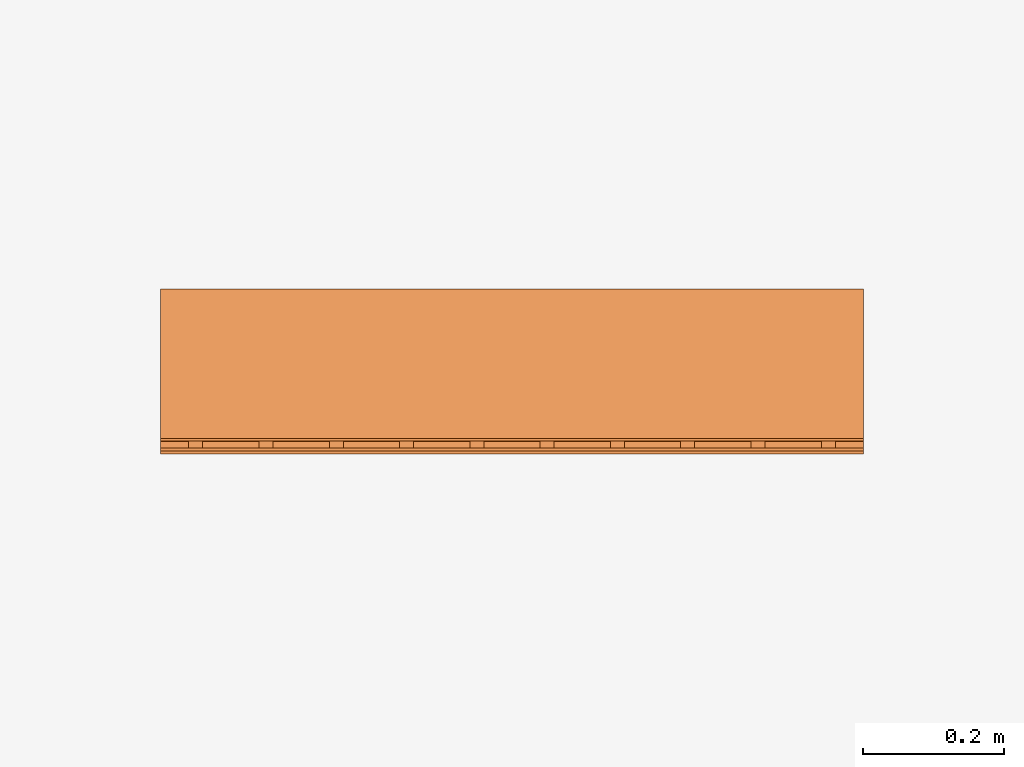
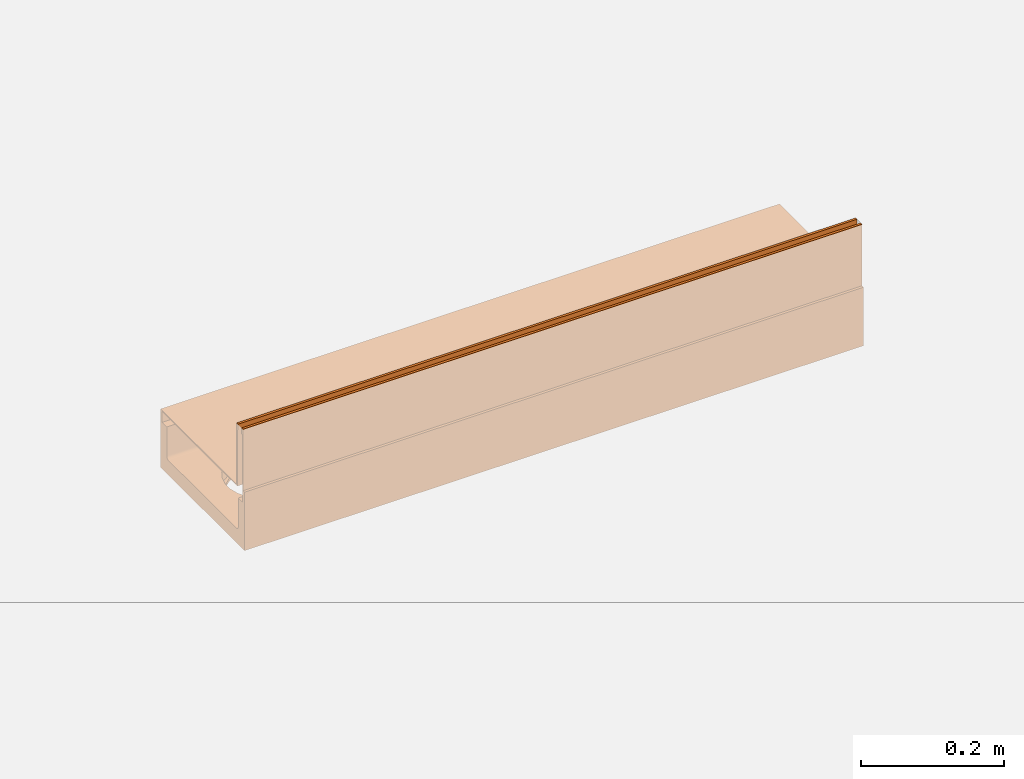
# One storey, part 2 of 2: 1 proxy, 1 opening.
"""IFC2X3 building model written with IfcOpenShell, lengths in millimetres."""

import ifcopenshell
import ifcopenshell.guid

model = None  # the IFC model being written
_history = None  # IfcOwnerHistory: only IFC2X3 demands one
_inside = {}  # id of a spatial element -> (the spatial element, [elements in it])
_under = {}  # id of a project, library or spatial element -> (it, [spatial elements below it])
_declared = {}  # id of a project -> (the project, [libraries it declares])
_typed = {}  # id of a type object -> (the type object, [elements of that type])
_made_of = {}  # id of a material, layer set ... -> (it, [elements and type objects made of it])


def new_model(schema):
    """Start an empty IFC model of exactly this schema.

    Asked for "IFC4X3", IfcOpenShell would pick the latest addendum, in which some entities
    have other attributes; the version numbers below select the first issue.
    IFC2X3 requires an IfcOwnerHistory on every rooted entity: one is made here for all.
    """
    global model, _history
    if schema == "IFC4X3":
        model = ifcopenshell.file(schema_version=(4, 3, 0, 0))
    else:
        model = ifcopenshell.file(schema=schema)
    _inside.clear()
    _under.clear()
    _declared.clear()
    _typed.clear()
    _made_of.clear()
    _history = None
    if model.schema == "IFC2X3":
        org = make("IfcOrganization", Name="unknown")
        user = make(
            "IfcPersonAndOrganization",
            ThePerson=make("IfcPerson", FamilyName="unknown"),
            TheOrganization=org,
        )
        app = make(
            "IfcApplication",
            ApplicationDeveloper=org,
            Version="unknown",
            ApplicationFullName="unknown",
            ApplicationIdentifier="unknown",
        )
        _history = make(
            "IfcOwnerHistory",
            OwningUser=user,
            OwningApplication=app,
            ChangeAction="ADDED",
            CreationDate=0,
        )
    return model


def make(cls, **values):
    """One entity of the class cls with the attributes given. An attribute that is None is left unset."""
    return model.create_entity(
        cls, **{name: value for name, value in values.items() if value is not None}
    )


def entity(cls, *values):
    """Any entity or typed value of the class cls, its attributes in the order of the schema. None: left unset."""
    e = model.create_entity(cls)
    for i, value in enumerate(values):
        if value is not None:
            e[i] = value
    return e


def rooted(cls, **values):
    """An entity with a GlobalId (a new one), such as an element, a storey or a relation."""
    return make(cls, GlobalId=ifcopenshell.guid.new(), OwnerHistory=_history, **values)


def si_unit(unit_type, name, prefix=None):
    """IfcSIUnit, for example si_unit("LENGTHUNIT", "METRE", prefix="MILLI")."""
    return make("IfcSIUnit", UnitType=unit_type, Prefix=prefix, Name=name)


def converted_unit(unit_type, name, factor, base, dimensions=None, offset=None):
    """IfcConversionBasedUnit, such as the inch: factor (a typed value) times the base unit."""
    return make(
        "IfcConversionBasedUnit"
        if offset is None
        else "IfcConversionBasedUnitWithOffset",
        ConversionOffset=offset,
        Dimensions=None
        if dimensions is None
        else entity("IfcDimensionalExponents", *dimensions),
        UnitType=unit_type,
        Name=name,
        ConversionFactor=make(
            "IfcMeasureWithUnit", ValueComponent=factor, UnitComponent=base
        ),
    )


def assignment(units):
    """IfcUnitAssignment: the units of a project."""
    return None if units is None else make("IfcUnitAssignment", Units=units)


def point(xyz):
    """IfcCartesianPoint."""
    return None if xyz is None else make("IfcCartesianPoint", Coordinates=xyz)


def direction(xyz):
    """IfcDirection."""
    return None if xyz is None else make("IfcDirection", DirectionRatios=xyz)


def frame(location, z_axis=None, x_axis=None):
    """IfcAxis2Placement3D, a coordinate frame: its origin and axes. An axis left out is left unset."""
    return make(
        "IfcAxis2Placement3D",
        Location=point(location),
        Axis=direction(z_axis),
        RefDirection=direction(x_axis),
    )


def frame_2d(location, x_axis=None):
    """IfcAxis2Placement2D, a coordinate frame in the plane: its origin and x axis."""
    return make(
        "IfcAxis2Placement2D", Location=point(location), RefDirection=direction(x_axis)
    )


def origin():
    """The frame at (0, 0, 0) with its axes left unset."""
    return frame((0.0, 0.0, 0.0))


def origin_2d_with_axis():
    """The frame at (0, 0) in the plane with the x axis (1, 0) written out."""
    return frame_2d((0.0, 0.0), x_axis=(1.0, 0.0))


def place(relative_to, where):
    """IfcLocalPlacement: puts the frame where relative to a parent placement (None: the world)."""
    return make(
        "IfcLocalPlacement", PlacementRelTo=relative_to, RelativePlacement=where
    )


def context(
    kind, dimensions, precision=None, world=None, true_north=None, identifier=None
):
    """IfcGeometricRepresentationContext, for example the 3D "Model" context."""
    return make(
        "IfcGeometricRepresentationContext",
        ContextIdentifier=identifier,
        ContextType=kind,
        CoordinateSpaceDimension=dimensions,
        Precision=precision,
        WorldCoordinateSystem=world,
        TrueNorth=true_north,
    )


def subcontext(parent, identifier, kind, view, scale=None):
    """IfcGeometricRepresentationSubContext, for example "Body" below "Model"."""
    return make(
        "IfcGeometricRepresentationSubContext",
        ContextIdentifier=identifier,
        ContextType=kind,
        ParentContext=parent,
        TargetScale=scale,
        TargetView=view,
    )


def project(units=None, contexts=None):
    """IfcProject with its units and contexts."""
    return rooted(
        "IfcProject",
        Name="project",
        RepresentationContexts=contexts,
        UnitsInContext=assignment(units),
    )


def spatial(cls, under=None, at=None, **own):
    """A site, building, storey or space (cls), placed at a placement, below another one or the project."""
    s = rooted(cls, ObjectPlacement=at, **own)
    if under is not None:
        _under.setdefault(under.id(), (under, []))[1].append(s)
    return s


def polyline(points):
    """IfcPolyline through the points."""
    return make("IfcPolyline", Points=[point(p) for p in points])


def circle_curve(where, radius):
    """IfcCircle in the frame where."""
    return make("IfcCircle", Position=where, Radius=radius)


def parameter(value):
    """IfcParameterValue: where a trimmed curve begins or ends, as a parameter of its basis curve."""
    return model.create_entity("IfcParameterValue", value)


def trimmed(basis, trim1, trim2, sense, master):
    """IfcTrimmedCurve: the piece of a basis curve between two trims."""
    return make(
        "IfcTrimmedCurve",
        BasisCurve=basis,
        Trim1=trim1,
        Trim2=trim2,
        SenseAgreement=sense,
        MasterRepresentation=master,
    )


def segment(curve, same_sense, transition):
    """IfcCompositeCurveSegment."""
    return make(
        "IfcCompositeCurveSegment",
        Transition=transition,
        SameSense=same_sense,
        ParentCurve=curve,
    )


def composite_curve(segments, self_intersect=None):
    """IfcCompositeCurve: segments joined end to end."""
    return make("IfcCompositeCurve", Segments=segments, SelfIntersect=self_intersect)


def profile(cls, at=None, kind="AREA", **sizes):
    """A parametric profile (cls). Its sizes go by their IFC names, for example OverallWidth=200.0."""
    return make(cls, ProfileType=kind, Position=at, **sizes)


def circle(**sizes):
    """IfcCircleProfileDef."""
    return profile("IfcCircleProfileDef", **sizes)


def outline(outer, holes=None, kind="AREA"):
    """IfcArbitraryClosedProfileDef: a profile drawn as a closed curve; with holes, ...WithVoids."""
    if holes is None:
        return make("IfcArbitraryClosedProfileDef", ProfileType=kind, OuterCurve=outer)
    return make(
        "IfcArbitraryProfileDefWithVoids",
        ProfileType=kind,
        OuterCurve=outer,
        InnerCurves=holes,
    )


def extrude(swept, where, along, depth):
    """IfcExtrudedAreaSolid: the profile swept, set in the frame where, extruded along a direction by depth."""
    return make(
        "IfcExtrudedAreaSolid",
        SweptArea=swept,
        Position=where,
        ExtrudedDirection=direction(along),
        Depth=depth,
    )


def shape(context_of_items, identifier, shape_type, items):
    """IfcShapeRepresentation: the items that make up one representation, for example the "Body"."""
    return make(
        "IfcShapeRepresentation",
        ContextOfItems=context_of_items,
        RepresentationIdentifier=identifier,
        RepresentationType=shape_type,
        Items=items,
    )


def source(mapping_origin, context_of_items, identifier, shape_type, items):
    """IfcRepresentationMap: a shape defined once, which mapped items show again and again."""
    return make(
        "IfcRepresentationMap",
        MappingOrigin=mapping_origin,
        MappedRepresentation=shape(context_of_items, identifier, shape_type, items),
    )


def transform(
    local_origin,
    x_axis=None,
    y_axis=None,
    z_axis=None,
    scale=None,
    scale2=None,
    scale3=None,
    uniform=True,
):
    """IfcCartesianTransformationOperator3D, or its non-uniform kind. x_axis, y_axis, z_axis: its Axis1, 2, 3."""
    if uniform:
        return make(
            "IfcCartesianTransformationOperator3D",
            Axis1=direction(x_axis),
            Axis2=direction(y_axis),
            LocalOrigin=point(local_origin),
            Scale=scale,
            Axis3=direction(z_axis),
        )
    return make(
        "IfcCartesianTransformationOperator3DnonUniform",
        Axis1=direction(x_axis),
        Axis2=direction(y_axis),
        LocalOrigin=point(local_origin),
        Scale=scale,
        Axis3=direction(z_axis),
        Scale2=scale2,
        Scale3=scale3,
    )


def mapped(mapping_source, mapping_target):
    """IfcMappedItem: shows the shape of a source again, moved by a transform."""
    return make(
        "IfcMappedItem", MappingSource=mapping_source, MappingTarget=mapping_target
    )


def material(Name=None, Category=None):
    """IfcMaterial."""
    return make("IfcMaterial", Name=Name, Category=Category)


def material_list(materials):
    """IfcMaterialList."""
    return make("IfcMaterialList", Materials=materials)


def made_of(thing, what):
    """Note that an element or type object is made of a material, layer set ...; save() writes the relation."""
    if what is not None:
        _made_of.setdefault(what.id(), (what, []))[1].append(thing)
    return thing


def element(
    cls,
    number,
    at=None,
    inside=None,
    cuts=None,
    type_object=None,
    material=None,
    context=None,
    identifier="Body",
    shape_type=None,
    held_by="IfcProductDefinitionShape",
    body=None,
    shapes=None,
    **own,
):
    """One element of the class cls, such as IfcWall. Its Tag is "e" and its number.

    at: its placement. inside: the storey or other place that contains it. cuts: it is an
    opening in that element (IfcRelVoidsElement). A single representation is given by context,
    identifier, shape_type and body (its items); several are given by shapes. held_by: the class
    of the entity that holds the representations. save() writes the other relations.
    """
    e = rooted(cls, Tag="e%d" % number, ObjectPlacement=at, **own)
    if body is not None:
        shapes = [shape(context, identifier, shape_type, body)]
    if shapes is not None:
        e.Representation = make(held_by, Representations=shapes)
    if inside is not None:
        _inside.setdefault(inside.id(), (inside, []))[1].append(e)
    if cuts is not None:
        rooted(
            "IfcRelVoidsElement", RelatingBuildingElement=cuts, RelatedOpeningElement=e
        )
    if type_object is not None:
        _typed.setdefault(type_object.id(), (type_object, []))[1].append(e)
    return made_of(e, material)


def aggregate(whole, parts):
    """IfcRelAggregates: a whole, such as a stair, and the parts it consists of."""
    return rooted("IfcRelAggregates", RelatingObject=whole, RelatedObjects=parts)


def save(model, path):
    """Write the relations noted so far, then the file.

    IfcRelAggregates (storeys below a building ...), IfcRelContainedInSpatialStructure (elements
    in a storey), IfcRelDefinesByType, IfcRelAssociatesMaterial and IfcRelDeclares: one each for
    every whole, place, type object, material and project.
    """
    for whole, parts in _under.values():
        aggregate(whole, parts)
    for where, things in _inside.values():
        rooted(
            "IfcRelContainedInSpatialStructure",
            RelatedElements=things,
            RelatingStructure=where,
        )
    for kind, things in _typed.values():
        rooted("IfcRelDefinesByType", RelatedObjects=things, RelatingType=kind)
    for what, things in _made_of.values():
        rooted("IfcRelAssociatesMaterial", RelatedObjects=things, RelatingMaterial=what)
    for by, libraries in _declared.values():
        rooted("IfcRelDeclares", RelatingContext=by, RelatedDefinitions=libraries)
    model.write(path)


model = new_model("IFC2X3")

# Units and contexts
model_context = context("Model", 3, precision=1e-06, world=origin(), true_north=direction((2.0, 6.12303176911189e-17, 1.0)))
context_of_model = context(None, 3, precision=1e-06, world=origin(), true_north=direction((2.0, 6.12303176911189e-17, 1.0)))
body_context = subcontext(model_context, "Body", "Model", "MODEL_VIEW")
ifc_project = project(units=[si_unit("LENGTHUNIT", "METRE", prefix="MILLI"), si_unit("AREAUNIT", "SQUARE_METRE", prefix="MILLI"), si_unit("VOLUMEUNIT", "CUBIC_METRE", prefix="MILLI"), converted_unit("PLANEANGLEUNIT", "DEGREE", entity("IfcRatioMeasure", 0.0174532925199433), si_unit("PLANEANGLEUNIT", "RADIAN"), dimensions=[0, 0, 0, 0, 0, 0, 0]), si_unit("TIMEUNIT", "SECOND")], contexts=[model_context, context_of_model])

# Site, building, storey
site_placement = place(None, origin())
site = spatial("IfcSite", under=ifc_project, at=site_placement, Name="Default", CompositionType="ELEMENT")
building_placement = place(site_placement, origin())
building = spatial("IfcBuilding", under=site, at=building_placement, CompositionType="ELEMENT")
storey_placement = place(building_placement, origin())
storey = spatial("IfcBuildingStorey", under=building, at=storey_placement, Name="Level 1", CompositionType="ELEMENT", Elevation=0.0)

# Proxy, opening
ifc_material_1 = material(Name="Steel, Galvanized")
ifc_material_2 = material(Name="Plastic, Opaque Black")
ifc_material_3 = material(Name="Vienite® Synthetic Resin Concrete")
ifc_material_list = material_list([ifc_material_1, ifc_material_2, ifc_material_3])
shared_shape = source(origin(), body_context, "Body", "SweptSolid", [
    extrude(outline(polyline([(-9.25, -10.0), (9.25000000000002, -10.0), (9.25, 10.0), (-9.25000000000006, 10.0), (-9.25, -10.0)]), holes=[polyline([(7.25000000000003, -8.0), (-7.25000000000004, -8.0), (-7.25000000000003, 8.0), (7.24999999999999, 8.0), (7.25000000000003, -8.0)])]), frame((-111.250000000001, 150.0, -116.2499999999), z_axis=(1.0, 0.0, 0.0), x_axis=(0.0, 0.0, -1.0)), (0.0, 0.0, 1.0), 224.5),
    extrude(outline(composite_curve([segment(trimmed(circle_curve(origin_2d_with_axis(), 60.0), [parameter(3.05333249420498e-13)], [parameter(180.0)], True, "PARAMETER"), True, "CONTINUOUS"), segment(trimmed(circle_curve(origin_2d_with_axis(), 60.0), [parameter(180.0)], [parameter(0.0)], True, "PARAMETER"), True, "CONTINUOUS")], self_intersect=False), holes=[composite_curve([segment(trimmed(circle_curve(origin_2d_with_axis(), 55.0), [parameter(180.0)], [parameter(360.0)], True, "PARAMETER"), False, "CONTINUOUS"), segment(trimmed(circle_curve(origin_2d_with_axis(), 55.0), [parameter(0.0)], [parameter(180.0)], True, "PARAMETER"), False, "CONTINUOUS")], self_intersect=False)]), frame((0.0, 900.0, -210.0), z_axis=(0.0, 0.0, 1.0), x_axis=(0.0, -1.0, 0.0)), (0.0, 0.0, 1.0), 30.0),
    extrude(outline(polyline([(-9.24999999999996, -10.0), (9.25000000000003, -10.0), (9.24999999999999, 10.0), (-9.25000000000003, 10.0), (-9.24999999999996, -10.0)]), holes=[polyline([(7.25000000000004, -8.0), (-7.25, -8.0), (-7.25000000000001, 8.0), (7.24999999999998, 8.0), (7.25000000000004, -8.0)])]), frame((-111.25, 250.0, -116.2499999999), z_axis=(1.0, 0.0, 0.0), x_axis=(0.0, 0.0, -1.0)), (0.0, 0.0, 1.0), 224.5),
    extrude(outline(polyline([(-9.24999999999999, -10.0), (9.25000000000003, -10.0), (9.24999999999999, 10.0), (-9.25000000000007, 10.0), (-9.24999999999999, -10.0)]), holes=[polyline([(7.25000000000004, -8.0), (-7.25000000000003, -8.0), (-7.25000000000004, 8.0), (7.24999999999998, 8.0), (7.25000000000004, -8.0)])]), frame((-111.250000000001, 350.0, -116.2499999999), z_axis=(1.0, 0.0, 0.0), x_axis=(0.0, 0.0, -1.0)), (0.0, 0.0, 1.0), 224.5),
    extrude(outline(polyline([(-9.24999999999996, -10.0), (9.25000000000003, -10.0), (9.24999999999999, 10.0), (-9.25000000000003, 10.0), (-9.24999999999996, -10.0)]), holes=[polyline([(7.25000000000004, -8.0), (-7.25000000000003, -8.0), (-7.25000000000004, 8.0), (7.24999999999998, 8.0), (7.25000000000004, -8.0)])]), frame((-111.250000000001, 450.0, -116.2499999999), z_axis=(1.0, 0.0, 0.0), x_axis=(0.0, 0.0, -1.0)), (0.0, 0.0, 1.0), 224.5),
    extrude(outline(polyline([(-9.24999999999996, -10.0), (9.25000000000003, -10.0), (9.25, 10.0), (-9.25000000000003, 10.0), (-9.24999999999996, -10.0)]), holes=[polyline([(7.25000000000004, -8.0), (-7.25, -8.0), (-7.25, 8.0), (7.24999999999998, 8.0), (7.25000000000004, -8.0)])]), frame((-111.250000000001, 50.0, -116.2499999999), z_axis=(1.0, 0.0, 0.0), x_axis=(0.0, 0.0, -1.0)), (0.0, 0.0, 1.0), 224.5),
    extrude(outline(polyline([(-9.24999999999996, -10.0), (9.25000000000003, -10.0), (9.24999999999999, 10.0), (-9.25000000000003, 10.0), (-9.24999999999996, -10.0)]), holes=[polyline([(7.25000000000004, -8.0), (-7.25, -8.0), (-7.25000000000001, 8.0), (7.24999999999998, 8.0), (7.25000000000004, -8.0)])]), frame((-111.25, 550.0, -116.2499999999), z_axis=(1.0, 0.0, 0.0), x_axis=(0.0, 0.0, -1.0)), (0.0, 0.0, 1.0), 224.5),
    extrude(outline(polyline([(-9.25000000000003, -10.0), (9.24999999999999, -10.0), (9.25000000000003, 10.0), (-9.25000000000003, 10.0), (-9.25000000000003, -10.0)]), holes=[polyline([(7.25000000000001, -8.0), (-7.25000000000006, -8.0), (-7.25000000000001, 8.0), (7.25000000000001, 8.0), (7.25000000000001, -8.0)])]), frame((-111.25, 650.0, -116.2499999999), z_axis=(1.0, 0.0, 0.0), x_axis=(0.0, 0.0, -1.0)), (0.0, 0.0, 1.0), 224.5),
    extrude(outline(polyline([(-9.24999999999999, -10.0), (9.24999999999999, -10.0), (9.25000000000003, 10.0), (-9.24999999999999, 10.0), (-9.24999999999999, -10.0)]), holes=[polyline([(7.25000000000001, -8.0), (-7.25000000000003, -8.0), (-7.24999999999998, 8.0), (7.25000000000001, 8.0), (7.25000000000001, -8.0)])]), frame((-111.25, 750.0, -116.2499999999), z_axis=(1.0, 0.0, 0.0), x_axis=(0.0, 0.0, -1.0)), (0.0, 0.0, 1.0), 224.5),
    extrude(outline(polyline([(-9.25000000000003, -10.0), (9.24999999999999, -10.0), (9.25000000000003, 10.0), (-9.25000000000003, 10.0), (-9.25000000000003, -10.0)]), holes=[polyline([(7.25000000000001, -8.0), (-7.25000000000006, -8.0), (-7.25000000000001, 8.0), (7.25000000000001, 8.0), (7.25000000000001, -8.0)])]), frame((-111.25, 850.0, -116.2499999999), z_axis=(1.0, 0.0, 0.0), x_axis=(0.0, 0.0, -1.0)), (0.0, 0.0, 1.0), 224.5),
    extrude(outline(polyline([(-9.25000000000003, -10.0), (9.24999999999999, -10.0), (9.25000000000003, 10.0), (-9.25000000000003, 10.0), (-9.25000000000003, -10.0)]), holes=[polyline([(7.25000000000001, -8.0), (-7.25000000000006, -8.0), (-7.25000000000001, 8.0), (7.25000000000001, 8.0), (7.25000000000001, -8.0)])]), frame((-111.249999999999, 950.0, -116.24999999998), z_axis=(1.0, 0.0, 0.0), x_axis=(0.0, 0.0, -1.0)), (0.0, 0.0, 1.0), 224.5),
    extrude(outline(polyline([(45.5000000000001, -54.6250000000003), (55.5000000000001, -54.6250000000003), (55.5000000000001, -50.6250000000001), (-49.4999999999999, -50.6250000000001), (-49.5000000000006, 157.875), (-51.5000000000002, 157.875), (-51.4999999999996, -52.6249999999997), (45.5000000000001, -52.6249999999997), (45.5000000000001, -54.6250000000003)])), frame((-44.6250000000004, 0.0, -55.4999999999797), z_axis=(0.0, 1.0, 0.0), x_axis=(0.0, 0.0, 1.0)), (0.0, 0.0, 1.0), 1000.0),
    extrude(outline(polyline([(-80.3333333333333, -2.0), (45.1666666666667, -2.0), (45.1666666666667, 2.0), (35.1666666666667, 2.0), (35.1666666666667, 0.0), (-80.3333333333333, 0.0), (-80.3333333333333, -2.0)])), frame((-111.250000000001, 0.0, -45.1666666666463), z_axis=(0.0, 1.0, 0.0), x_axis=(0.0, 0.0, 1.0)), (0.0, 0.0, 1.0), 1000.0),
    extrude(outline(composite_curve([segment(polyline([(-117.5, -40.857142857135), (-113.25, -40.857142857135)]), True, "CONTINUOUS"), segment(polyline([(-113.25, -40.857142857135), (-113.25, -20.3571428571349)]), True, "CONTINUOUS"), segment(polyline([(-113.25, -20.3571428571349), (-100.0, -20.3571428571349)]), True, "CONTINUOUS"), segment(polyline([(-100.0, -20.3571428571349), (-100.0, 29.1428571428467)]), True, "CONTINUOUS"), segment(trimmed(circle_curve(frame_2d((-95.0, 29.1428571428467), x_axis=(-1.0, 0.0)), 5.0), [parameter(270.0)], [parameter(4.07110999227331e-13)], True, "PARAMETER"), False, "CONTINUOUS"), segment(polyline([(-95.0, 34.1428571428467), (95.0, 34.1428571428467)]), True, "CONTINUOUS"), segment(trimmed(circle_curve(frame_2d((95.0, 29.1428571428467), x_axis=(-1.0, 0.0)), 5.0), [parameter(180.0)], [parameter(270.0)], True, "PARAMETER"), False, "CONTINUOUS"), segment(polyline([(100.0, 29.1428571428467), (100.0, -20.357142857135)]), True, "CONTINUOUS"), segment(polyline([(100.0, -20.357142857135), (113.25, -20.357142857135)]), True, "CONTINUOUS"), segment(polyline([(113.25, -20.357142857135), (113.25, -40.857142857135)]), True, "CONTINUOUS"), segment(polyline([(113.25, -40.857142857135), (117.5, -40.857142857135)]), True, "CONTINUOUS"), segment(polyline([(117.5, -40.857142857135), (117.5, 59.1428571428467)]), True, "CONTINUOUS"), segment(polyline([(117.5, 59.1428571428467), (-117.5, 59.1428571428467)]), True, "CONTINUOUS"), segment(polyline([(-117.5, 59.1428571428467), (-117.5, -40.857142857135)]), True, "CONTINUOUS")], self_intersect=False)), frame((0.0, 0.0, -145.857142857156), z_axis=(0.0, 1.0, 0.0), x_axis=(1.0, 0.0, 0.0)), (0.0, 0.0, 1.0), 1000.0),
])
proxy_placement = place(storey_placement, frame((495.16587281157, 167.633200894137, 0.0), z_axis=(0.0, 0.0, 1.0), x_axis=(0.0, 1.0, 0.0)))
proxy = element("IfcBuildingElementProxy", 1, at=proxy_placement, inside=storey, material=ifc_material_list, Name="Civil-Drainage-Channel-ACO-MultiDrain-M200D-Brickslot-Channel-System:23217 - No 0100V Constant Depth Channel - 1000mm LG - Invert Depth 75mm:23217 - No 0100V Constant Depth Channel - 1000mm LG - Invert Depth 75mm", ObjectType="23217 - No 0100V Constant Depth Channel - 1000mm LG - Invert Depth 75mm", CompositionType="ELEMENT", context=body_context, shape_type="MappedRepresentation", body=[
    mapped(shared_shape, transform((0.0, 0.0, 0.0), scale=1.0)),
])
opening_placement = place(storey_placement, frame((495.16587281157, 167.633200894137, 0.0), z_axis=(0.0, 0.0, 1.0), x_axis=(-1.0, 0.0, 0.0)))
element("IfcOpeningElement", 2, at=opening_placement, cuts=proxy, Name="Civil-Drainage-Channel-ACO-MultiDrain-M200D-Brickslot-Channel-System:23217 - No 0100V Constant Depth Channel - 1000mm LG - Invert Depth 75mm:23217 - No 0100V Constant Depth Channel - 1000mm LG - Invert Depth 75mm:1", ObjectType="Opening", context=body_context, shape_type="SweptSolid", body=[
    extrude(circle(Radius=60.0, at=frame_2d((4.80889607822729e-28, -1.76735507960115e-42), x_axis=(1.0, 0.0))), frame((900.0, 0.0, -180.0), z_axis=(0.0, 0.0, -1.0), x_axis=(0.0, 1.0, 0.0)), (0.0, 0.0, 1.0), 25.0),
])

save(model, "model.ifc")
